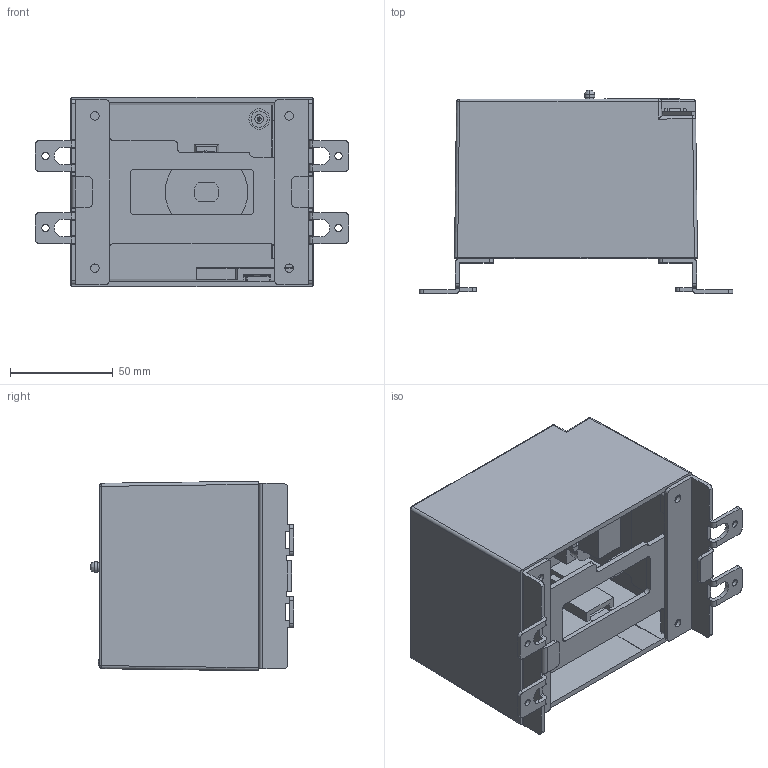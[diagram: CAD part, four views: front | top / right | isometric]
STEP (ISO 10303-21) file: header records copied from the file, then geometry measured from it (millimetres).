
FILE_DESCRIPTION (( 'STEP AP203' ), '1' );
FILE_NAME ('萇紱TGM1N-250ZPT.STEP', '2026-06-11T02:35:54', ( 'Windows 蚚誧' ), ( 'Microsoft' ), 'SwSTEP 2.0', 'SolidWorks 2022', '' );
FILE_SCHEMA (( 'CONFIG_CONTROL_DESIGN' ));
Length unit declared in the file: millimetre
Products named in the file (10): TGM1N-250褐殤; CD2-100褲极; 迕諶偌聽; 萇紱TGM1N-250ZPT; 忒紱忒梟; 芵隴誘欶; CD2-100軞儂殤; 峚雄賑璃1; 萇紱傷赽; CD2-100伎攫
Assembly tree (9 placements, depth 2):
  萇紱TGM1N-250ZPT
    CD2-100伎攫
    CD2-100軞儂殤
    TGM1N-250褐殤
    CD2-100褲极
    迕諶偌聽
    忒紱忒梟
    芵隴誘欶
    峚雄賑璃1
    萇紱傷赽
Bounding box: 152.4 x 98.91 x 92.1 mm (x, y, z)
Volume: 163803.9 mm3; surface area: 141161.3 mm2
Topology: 11 solids, 11 shells, 869 faces, 2453 edges, 1614 vertices
Faces by surface type: plane 582, cylinder 226, bspline 44, torus 16, sphere 1
Entity records: 31095 total; most frequent: CARTESIAN_POINT 7389, ORIENTED_EDGE 4902, DIRECTION 4473, EDGE_CURVE 2451, LINE 1767, VECTOR 1767, VERTEX_POINT 1614, AXIS2_PLACEMENT_3D 1353
